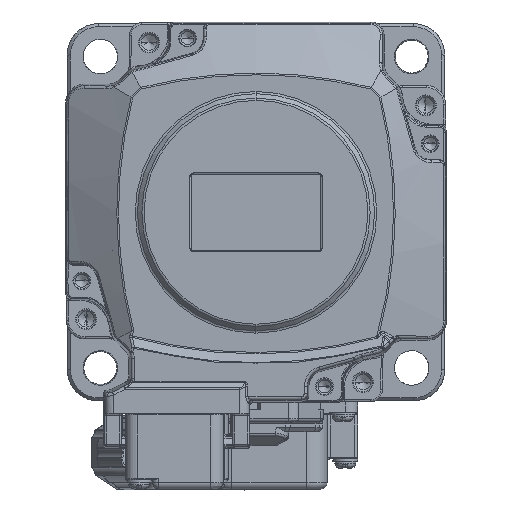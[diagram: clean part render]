
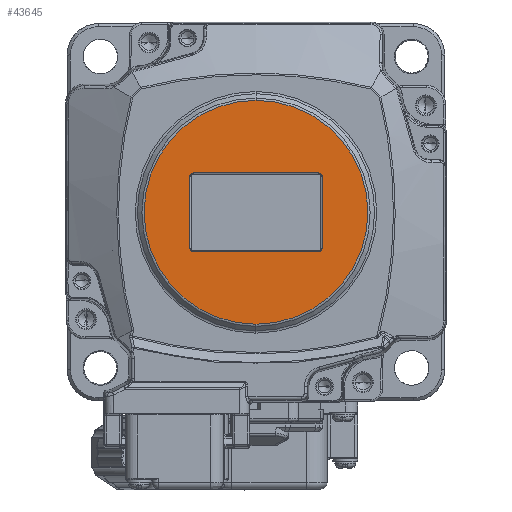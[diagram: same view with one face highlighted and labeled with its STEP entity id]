
A CAD part, front view. The second image highlights one B-rep face of the part: STEP entity #43645.
In plain terms, the highlighted planar face has unit normal (0, -1, 0).
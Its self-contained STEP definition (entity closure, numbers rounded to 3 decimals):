
#11160=CARTESIAN_POINT('',(0.,-101.5,0.));
#11161=DIRECTION('',(0.,-1.,0.));
#11162=DIRECTION('',(0.,0.,-1.));
#11163=AXIS2_PLACEMENT_3D('',#11160,#11161,#11162);
#11170=CARTESIAN_POINT('',(10.,-101.5,-5.75));
#11171=DIRECTION('',(0.,-1.,0.));
#11172=DIRECTION('',(0.,0.,-1.));
#11173=AXIS2_PLACEMENT_3D('',#11170,#11171,#11172);
#11175=CARTESIAN_POINT('',(10.,-101.5,5.75));
#11176=DIRECTION('',(0.,-1.,0.));
#11177=DIRECTION('',(1.,0.,0.));
#11178=AXIS2_PLACEMENT_3D('',#11175,#11176,#11177);
#11180=CARTESIAN_POINT('',(-10.,-101.5,5.75));
#11181=DIRECTION('',(0.,-1.,0.));
#11182=DIRECTION('',(0.,0.,1.));
#11183=AXIS2_PLACEMENT_3D('',#11180,#11181,#11182);
#11185=CARTESIAN_POINT('',(-10.,-101.5,-5.75));
#11186=DIRECTION('',(0.,-1.,0.));
#11187=DIRECTION('',(-1.,0.,0.));
#11188=AXIS2_PLACEMENT_3D('',#11185,#11186,#11187);
#11190=CARTESIAN_POINT('',(0.,-101.5,0.));
#11191=DIRECTION('',(0.,-1.,0.));
#11192=DIRECTION('',(0.,0.,1.));
#11193=AXIS2_PLACEMENT_3D('',#11190,#11191,#11192);
#11223=DIRECTION('',(-1.,0.,0.));
#11224=VECTOR('',#11223,20.);
#11225=CARTESIAN_POINT('',(10.,-101.5,-6.25));
#11226=LINE('',#11225,#11224);
#11261=DIRECTION('',(0.,0.,1.));
#11262=VECTOR('',#11261,11.5);
#11263=CARTESIAN_POINT('',(-10.5,-101.5,-5.75));
#11264=LINE('',#11263,#11262);
#11279=DIRECTION('',(1.,0.,0.));
#11280=VECTOR('',#11279,20.);
#11281=CARTESIAN_POINT('',(-10.,-101.5,6.25));
#11282=LINE('',#11281,#11280);
#11297=DIRECTION('',(0.,0.,-1.));
#11298=VECTOR('',#11297,11.5);
#11299=CARTESIAN_POINT('',(10.5,-101.5,5.75));
#11300=LINE('',#11299,#11298);
#28717=CARTESIAN_POINT('',(0.,-101.5,17.793));
#28718=VERTEX_POINT('',#28717);
#28719=CARTESIAN_POINT('',(0.,-101.5,-17.793));
#28720=VERTEX_POINT('',#28719);
#28721=CARTESIAN_POINT('',(10.,-101.5,-6.25));
#28722=CARTESIAN_POINT('',(10.5,-101.5,-5.75));
#28723=VERTEX_POINT('',#28721);
#28724=VERTEX_POINT('',#28722);
#28725=CARTESIAN_POINT('',(10.5,-101.5,5.75));
#28726=VERTEX_POINT('',#28725);
#28727=CARTESIAN_POINT('',(10.,-101.5,6.25));
#28728=VERTEX_POINT('',#28727);
#28729=CARTESIAN_POINT('',(-10.,-101.5,6.25));
#28730=VERTEX_POINT('',#28729);
#28731=CARTESIAN_POINT('',(-10.5,-101.5,5.75));
#28732=VERTEX_POINT('',#28731);
#28733=CARTESIAN_POINT('',(-10.5,-101.5,-5.75));
#28734=VERTEX_POINT('',#28733);
#28735=CARTESIAN_POINT('',(-10.,-101.5,-6.25));
#28736=VERTEX_POINT('',#28735);
#43617=CARTESIAN_POINT('',(0.,-101.5,0.));
#43618=DIRECTION('',(0.,-1.,0.));
#43619=DIRECTION('',(0.,0.,1.));
#43620=AXIS2_PLACEMENT_3D('',#43617,#43618,#43619);
#43621=PLANE('',#43620);
#43623=ORIENTED_EDGE('',*,*,#43622,.F.);
#43624=ORIENTED_EDGE('',*,*,#43607,.F.);
#43625=EDGE_LOOP('',(#43623,#43624));
#43626=FACE_OUTER_BOUND('',#43625,.F.);
#43628=ORIENTED_EDGE('',*,*,#43627,.T.);
#43630=ORIENTED_EDGE('',*,*,#43629,.F.);
#43632=ORIENTED_EDGE('',*,*,#43631,.T.);
#43634=ORIENTED_EDGE('',*,*,#43633,.F.);
#43636=ORIENTED_EDGE('',*,*,#43635,.T.);
#43638=ORIENTED_EDGE('',*,*,#43637,.F.);
#43640=ORIENTED_EDGE('',*,*,#43639,.T.);
#43642=ORIENTED_EDGE('',*,*,#43641,.F.);
#43643=EDGE_LOOP('',(#43628,#43630,#43632,#43634,#43636,#43638,#43640,#43642));
#43644=FACE_BOUND('',#43643,.F.);
#43645=ADVANCED_FACE('',(#43626,#43644),#43621,.T.);
#11164=CIRCLE('',#11163,17.793);
#11174=CIRCLE('',#11173,0.5);
#11179=CIRCLE('',#11178,0.5);
#11184=CIRCLE('',#11183,0.5);
#11189=CIRCLE('',#11188,0.5);
#11194=CIRCLE('',#11193,17.793);
#43607=EDGE_CURVE('',#28720,#28718,#11164,.T.);
#43622=EDGE_CURVE('',#28718,#28720,#11194,.T.);
#43627=EDGE_CURVE('',#28723,#28724,#11174,.T.);
#43629=EDGE_CURVE('',#28726,#28724,#11300,.T.);
#43631=EDGE_CURVE('',#28726,#28728,#11179,.T.);
#43633=EDGE_CURVE('',#28730,#28728,#11282,.T.);
#43635=EDGE_CURVE('',#28730,#28732,#11184,.T.);
#43637=EDGE_CURVE('',#28734,#28732,#11264,.T.);
#43639=EDGE_CURVE('',#28734,#28736,#11189,.T.);
#43641=EDGE_CURVE('',#28723,#28736,#11226,.T.);
